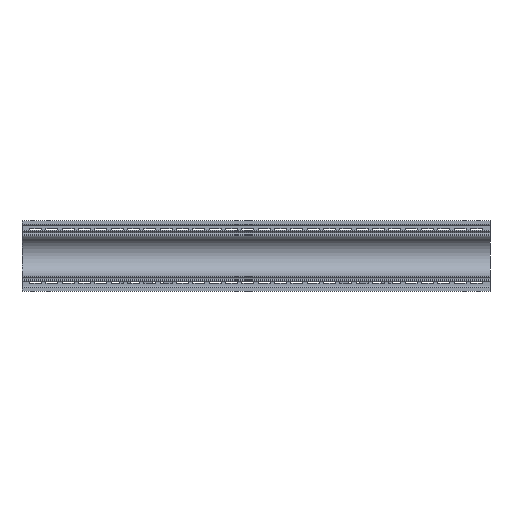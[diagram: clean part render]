
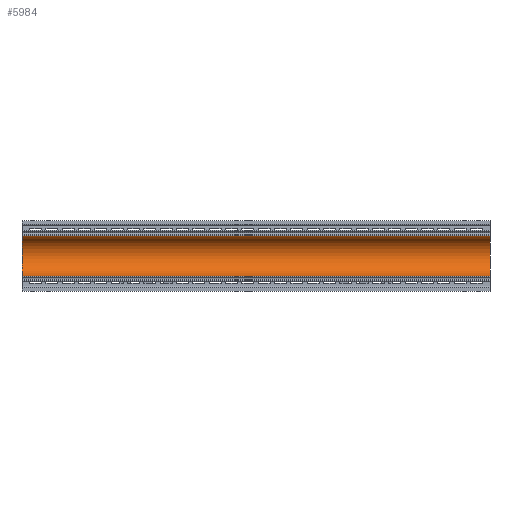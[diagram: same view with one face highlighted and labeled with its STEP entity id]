
A CAD part, left-side view. The second image highlights one B-rep face of the part: STEP entity #5984.
In plain terms, the highlighted cylindrical face has radius 37 mm (diameter 74 mm), a partial arc.
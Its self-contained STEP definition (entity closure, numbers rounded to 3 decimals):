
#5843=AXIS2_PLACEMENT_3D('Circle Axis2P3D',#5841,#5842,$) ;
#5964=AXIS2_PLACEMENT_3D('Cylinder Axis2P3D',#5961,#5962,#5963) ;
#5975=AXIS2_PLACEMENT_3D('Circle Axis2P3D',#5973,#5974,$) ;
#1504=CARTESIAN_POINT('Vertex',(0.,430.,37.)) ;
#1507=CARTESIAN_POINT('Line Origine',(0.,0.,37.)) ;
#1511=CARTESIAN_POINT('Vertex',(0.,-430.,37.)) ;
#5841=CARTESIAN_POINT('Axis2P3D Location',(0.,-430.,0.)) ;
#5845=CARTESIAN_POINT('Vertex',(0.,-430.,-37.)) ;
#5961=CARTESIAN_POINT('Axis2P3D Location',(0.,0.,0.)) ;
#5966=CARTESIAN_POINT('Line Origine',(0.,0.,-37.)) ;
#5970=CARTESIAN_POINT('Vertex',(0.,430.,-37.)) ;
#5973=CARTESIAN_POINT('Axis2P3D Location',(0.,430.,0.)) ;
#1508=DIRECTION('Vector Direction',(0.,1.,0.)) ;
#5842=DIRECTION('Axis2P3D Direction',(0.,1.,-0.)) ;
#5962=DIRECTION('Axis2P3D Direction',(0.,1.,-0.)) ;
#5963=DIRECTION('Axis2P3D XDirection',(0.,0.,1.)) ;
#5967=DIRECTION('Vector Direction',(0.,1.,0.)) ;
#5974=DIRECTION('Axis2P3D Direction',(0.,1.,-0.)) ;
#1509=VECTOR('Line Direction',#1508,1.) ;
#5968=VECTOR('Line Direction',#5967,1.) ;
#5979=ORIENTED_EDGE('',*,*,#5972,.F.) ;
#5980=ORIENTED_EDGE('',*,*,#5847,.T.) ;
#5981=ORIENTED_EDGE('',*,*,#1513,.T.) ;
#5982=ORIENTED_EDGE('',*,*,#5977,.F.) ;
#5984=ADVANCED_FACE('PartBody',(#5983),#5965,.F.) ;
#5844=CIRCLE('generated circle',#5843,37.) ;
#5976=CIRCLE('generated circle',#5975,37.) ;
#5965=CYLINDRICAL_SURFACE('generated cylinder',#5964,37.) ;
#1513=EDGE_CURVE('',#1512,#1505,#1510,.T.) ;
#5847=EDGE_CURVE('',#5846,#1512,#5844,.F.) ;
#5972=EDGE_CURVE('',#5846,#5971,#5969,.T.) ;
#5977=EDGE_CURVE('',#5971,#1505,#5976,.F.) ;
#5978=EDGE_LOOP('',(#5979,#5980,#5981,#5982)) ;
#5983=FACE_OUTER_BOUND('',#5978,.T.) ;
#1510=LINE('Line',#1507,#1509) ;
#5969=LINE('Line',#5966,#5968) ;
#1505=VERTEX_POINT('',#1504) ;
#1512=VERTEX_POINT('',#1511) ;
#5846=VERTEX_POINT('',#5845) ;
#5971=VERTEX_POINT('',#5970) ;
